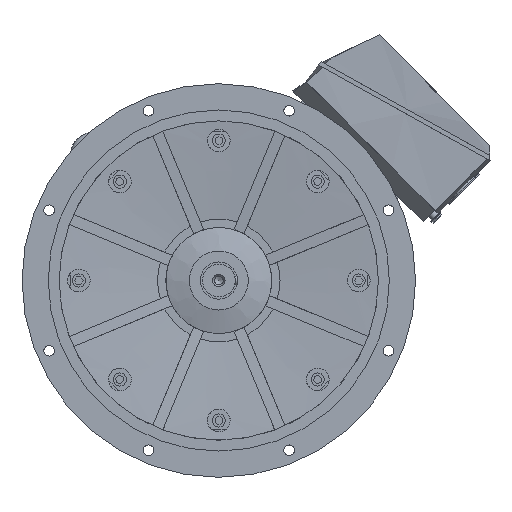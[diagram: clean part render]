
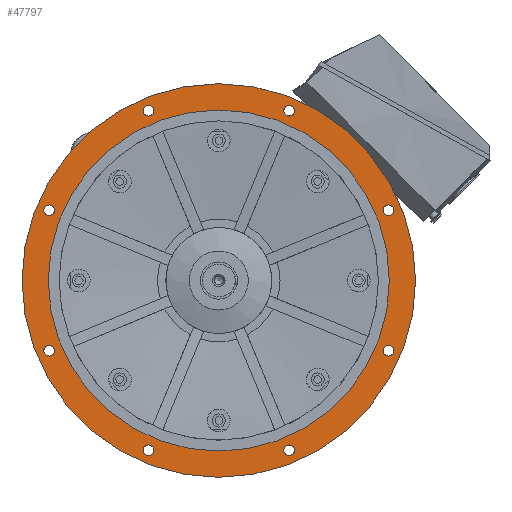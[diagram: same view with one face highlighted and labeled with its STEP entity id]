
A CAD part, left-side view. The second image highlights one B-rep face of the part: STEP entity #47797.
In plain terms, the highlighted planar face has unit normal (-1, 0, 0).
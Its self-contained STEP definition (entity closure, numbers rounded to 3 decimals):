
#535 = DIRECTION ( 'NONE',  ( 1., 0., 0. ) ) ;
#1085 = EDGE_CURVE ( 'NONE', #13649, #13649, #20092, .T. ) ;
#1903 = DIRECTION ( 'NONE',  ( 0., 0., -1. ) ) ;
#1905 = EDGE_CURVE ( 'NONE', #38357, #38357, #8527, .T. ) ;
#1943 = CARTESIAN_POINT ( 'NONE',  ( -110., -160.727, 376.029 ) ) ;
#2004 = EDGE_CURVE ( 'NONE', #24324, #24324, #11029, .T. ) ;
#2009 = EDGE_CURVE ( 'NONE', #10407, #10407, #11540, .T. ) ;
#2055 = ORIENTED_EDGE ( 'NONE', *, *, #2192, .T. ) ;
#2108 = EDGE_CURVE ( 'NONE', #63839, #63839, #17407, .T. ) ;
#2192 = EDGE_CURVE ( 'NONE', #50346, #50346, #20242, .T. ) ;
#2213 = EDGE_CURVE ( 'NONE', #36729, #36729, #20375, .T. ) ;
#2286 = EDGE_CURVE ( 'NONE', #22672, #22672, #22820, .T. ) ;
#2300 = EDGE_CURVE ( 'NONE', #8755, #8755, #23076, .T. ) ;
#2312 = EDGE_CURVE ( 'NONE', #62236, #62236, #23134, .T. ) ;
#3800 = CARTESIAN_POINT ( 'NONE',  ( -110., 388.029, 160.727 ) ) ;
#6332 = DIRECTION ( 'NONE',  ( 0., 0., -1. ) ) ;
#7279 = CARTESIAN_POINT ( 'NONE',  ( -110., 388.029, 148.727 ) ) ;
#7377 = ORIENTED_EDGE ( 'NONE', *, *, #2300, .T. ) ;
#7464 = DIRECTION ( 'NONE',  ( 1., 0., 0. ) ) ;
#7841 = EDGE_LOOP ( 'NONE', ( #7377 ) ) ;
#8527 = CIRCLE ( 'NONE', #56367, 450. ) ;
#8755 = VERTEX_POINT ( 'NONE', #17797 ) ;
#9135 = CARTESIAN_POINT ( 'NONE',  ( -110., -388.029, -160.727 ) ) ;
#9582 = CARTESIAN_POINT ( 'NONE',  ( -110., -388.029, 160.727 ) ) ;
#10407 = VERTEX_POINT ( 'NONE', #38721 ) ;
#11029 = CIRCLE ( 'NONE', #40821, 12. ) ;
#11226 = FACE_BOUND ( 'NONE', #31828, .T. ) ;
#11305 = ORIENTED_EDGE ( 'NONE', *, *, #1905, .F. ) ;
#11540 = CIRCLE ( 'NONE', #55781, 12. ) ;
#11828 = DIRECTION ( 'NONE',  ( 1., 0., 0. ) ) ;
#12299 = CARTESIAN_POINT ( 'NONE',  ( -110., 0., 390. ) ) ;
#12533 = CARTESIAN_POINT ( 'NONE',  ( -110., 160.727, -400.029 ) ) ;
#12839 = FACE_OUTER_BOUND ( 'NONE', #41251, .T. ) ;
#13544 = EDGE_LOOP ( 'NONE', ( #24740 ) ) ;
#13649 = VERTEX_POINT ( 'NONE', #12299 ) ;
#14721 = AXIS2_PLACEMENT_3D ( 'NONE', #15021, #51460, #20326 ) ;
#15021 = CARTESIAN_POINT ( 'NONE',  ( -110., 420., 0. ) ) ;
#17407 = CIRCLE ( 'NONE', #54335, 12. ) ;
#17797 = CARTESIAN_POINT ( 'NONE',  ( -110., -388.029, -172.727 ) ) ;
#18513 = DIRECTION ( 'NONE',  ( 1., 0., 0. ) ) ;
#18730 = CARTESIAN_POINT ( 'NONE',  ( -110., -160.727, -388.029 ) ) ;
#20092 = CIRCLE ( 'NONE', #63900, 390. ) ;
#20242 = CIRCLE ( 'NONE', #53760, 12. ) ;
#20326 = DIRECTION ( 'NONE',  ( 0., 0., 1. ) ) ;
#20375 = CIRCLE ( 'NONE', #53561, 12. ) ;
#22345 = DIRECTION ( 'NONE',  ( 0., 0., -1. ) ) ;
#22672 = VERTEX_POINT ( 'NONE', #49052 ) ;
#22820 = CIRCLE ( 'NONE', #52776, 12. ) ;
#23076 = CIRCLE ( 'NONE', #52606, 12. ) ;
#23134 = CIRCLE ( 'NONE', #30726, 12. ) ;
#24324 = VERTEX_POINT ( 'NONE', #1943 ) ;
#24456 = DIRECTION ( 'NONE',  ( 0., 0., -1. ) ) ;
#24740 = ORIENTED_EDGE ( 'NONE', *, *, #1085, .T. ) ;
#25140 = FACE_BOUND ( 'NONE', #31877, .T. ) ;
#25372 = PLANE ( 'NONE',  #14721 ) ;
#25885 = EDGE_LOOP ( 'NONE', ( #28053 ) ) ;
#26270 = EDGE_LOOP ( 'NONE', ( #31841 ) ) ;
#26802 = FACE_BOUND ( 'NONE', #13544, .T. ) ;
#28053 = ORIENTED_EDGE ( 'NONE', *, *, #2004, .T. ) ;
#30726 = AXIS2_PLACEMENT_3D ( 'NONE', #9582, #11828, #24456 ) ;
#31828 = EDGE_LOOP ( 'NONE', ( #64676 ) ) ;
#31841 = ORIENTED_EDGE ( 'NONE', *, *, #2312, .T. ) ;
#31877 = EDGE_LOOP ( 'NONE', ( #2055 ) ) ;
#33456 = CARTESIAN_POINT ( 'NONE',  ( -110., 0., 450. ) ) ;
#35727 = DIRECTION ( 'NONE',  ( 0., 0., -1. ) ) ;
#35942 = DIRECTION ( 'NONE',  ( 1., 0., 0. ) ) ;
#36729 = VERTEX_POINT ( 'NONE', #12533 ) ;
#37013 = ORIENTED_EDGE ( 'NONE', *, *, #2009, .T. ) ;
#37528 = FACE_BOUND ( 'NONE', #26270, .T. ) ;
#38357 = VERTEX_POINT ( 'NONE', #33456 ) ;
#38721 = CARTESIAN_POINT ( 'NONE',  ( -110., 160.727, 376.029 ) ) ;
#39152 = FACE_BOUND ( 'NONE', #60449, .T. ) ;
#39471 = CARTESIAN_POINT ( 'NONE',  ( -110., 0., 0. ) ) ;
#39692 = DIRECTION ( 'NONE',  ( 1., 0., 0. ) ) ;
#39746 = DIRECTION ( 'NONE',  ( 0., 0., 1. ) ) ;
#39790 = CARTESIAN_POINT ( 'NONE',  ( -110., 160.727, -388.029 ) ) ;
#40095 = DIRECTION ( 'NONE',  ( 1., 0., 0. ) ) ;
#40225 = EDGE_LOOP ( 'NONE', ( #42183 ) ) ;
#40785 = FACE_BOUND ( 'NONE', #25885, .T. ) ;
#40821 = AXIS2_PLACEMENT_3D ( 'NONE', #56022, #52687, #49788 ) ;
#41251 = EDGE_LOOP ( 'NONE', ( #11305 ) ) ;
#42183 = ORIENTED_EDGE ( 'NONE', *, *, #2286, .T. ) ;
#43969 = CARTESIAN_POINT ( 'NONE',  ( -110., 388.029, -172.727 ) ) ;
#45443 = CARTESIAN_POINT ( 'NONE',  ( -110., 160.727, 388.029 ) ) ;
#47797 = ADVANCED_FACE ( 'NONE', ( #26802, #12839, #40785, #66187, #39152, #25140, #11226, #64598, #51104, #37528 ), #25372, .T. ) ;
#49052 = CARTESIAN_POINT ( 'NONE',  ( -110., -160.727, -400.029 ) ) ;
#49788 = DIRECTION ( 'NONE',  ( 0., 0., -1. ) ) ;
#50346 = VERTEX_POINT ( 'NONE', #43969 ) ;
#51104 = FACE_BOUND ( 'NONE', #7841, .T. ) ;
#51460 = DIRECTION ( 'NONE',  ( -1., 0., 0. ) ) ;
#52538 = DIRECTION ( 'NONE',  ( 0., 0., -1. ) ) ;
#52606 = AXIS2_PLACEMENT_3D ( 'NONE', #9135, #18513, #22345 ) ;
#52687 = DIRECTION ( 'NONE',  ( 1., 0., 0. ) ) ;
#52776 = AXIS2_PLACEMENT_3D ( 'NONE', #18730, #7464, #6332 ) ;
#53561 = AXIS2_PLACEMENT_3D ( 'NONE', #39790, #40095, #52538 ) ;
#53760 = AXIS2_PLACEMENT_3D ( 'NONE', #54772, #54994, #54273 ) ;
#54097 = CARTESIAN_POINT ( 'NONE',  ( -110., -388.029, 148.727 ) ) ;
#54273 = DIRECTION ( 'NONE',  ( 0., 0., -1. ) ) ;
#54335 = AXIS2_PLACEMENT_3D ( 'NONE', #3800, #535, #1903 ) ;
#54772 = CARTESIAN_POINT ( 'NONE',  ( -110., 388.029, -160.727 ) ) ;
#54994 = DIRECTION ( 'NONE',  ( 1., 0., 0. ) ) ;
#55495 = CARTESIAN_POINT ( 'NONE',  ( -110., 0., 0. ) ) ;
#55569 = DIRECTION ( 'NONE',  ( 1., 0., 0. ) ) ;
#55781 = AXIS2_PLACEMENT_3D ( 'NONE', #45443, #35942, #35727 ) ;
#56022 = CARTESIAN_POINT ( 'NONE',  ( -110., -160.727, 388.029 ) ) ;
#56367 = AXIS2_PLACEMENT_3D ( 'NONE', #55495, #55569, #60694 ) ;
#60449 = EDGE_LOOP ( 'NONE', ( #62756 ) ) ;
#60694 = DIRECTION ( 'NONE',  ( 0., 0., 1. ) ) ;
#62236 = VERTEX_POINT ( 'NONE', #54097 ) ;
#62756 = ORIENTED_EDGE ( 'NONE', *, *, #2108, .T. ) ;
#63839 = VERTEX_POINT ( 'NONE', #7279 ) ;
#63900 = AXIS2_PLACEMENT_3D ( 'NONE', #39471, #39692, #39746 ) ;
#64598 = FACE_BOUND ( 'NONE', #40225, .T. ) ;
#64676 = ORIENTED_EDGE ( 'NONE', *, *, #2213, .T. ) ;
#65986 = EDGE_LOOP ( 'NONE', ( #37013 ) ) ;
#66187 = FACE_BOUND ( 'NONE', #65986, .T. ) ;
